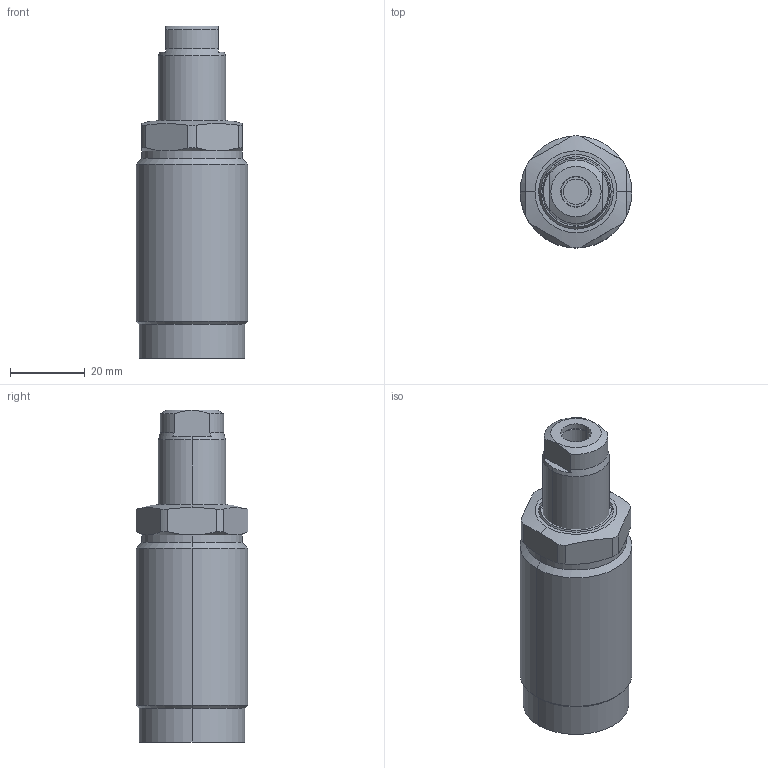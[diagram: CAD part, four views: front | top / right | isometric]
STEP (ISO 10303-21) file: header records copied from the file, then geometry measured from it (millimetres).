
FILE_DESCRIPTION (( 'STEP AP203' ), '1' );
FILE_NAME ('650301-AL.step', '2016-11-02T03:14:04', ( 'wxp' ), ( '' ), 'SwSTEP 2.0', 'SolidWorks 2011', '' );
FILE_SCHEMA (( 'CONFIG_CONTROL_DESIGN' ));
Length unit declared in the file: millimetre
Products named in the file (3): 650301-AL; 葩璃 650301-AL.sldasm-Part-2^650301-AL; 葩璃 650301-AL.sldasm-Part-1^650301-AL
Assembly tree (2 placements, depth 2):
  650301-AL
    葩璃 650301-AL.sldasm-Part-1^650301-AL
    葩璃 650301-AL.sldasm-Part-2^650301-AL
Bounding box: 30 x 30 x 89 mm (x, y, z)
Volume: 48824.8 mm3; surface area: 9920.1 mm2
Topology: 2 solids, 2 shells, 84 faces, 194 edges, 121 vertices
Faces by surface type: cylinder 34, cone 22, plane 22, torus 6
Entity records: 2773 total; most frequent: CARTESIAN_POINT 558, DIRECTION 430, ORIENTED_EDGE 384, EDGE_CURVE 192, AXIS2_PLACEMENT_3D 185, VERTEX_POINT 121, CIRCLE 96, EDGE_LOOP 93
